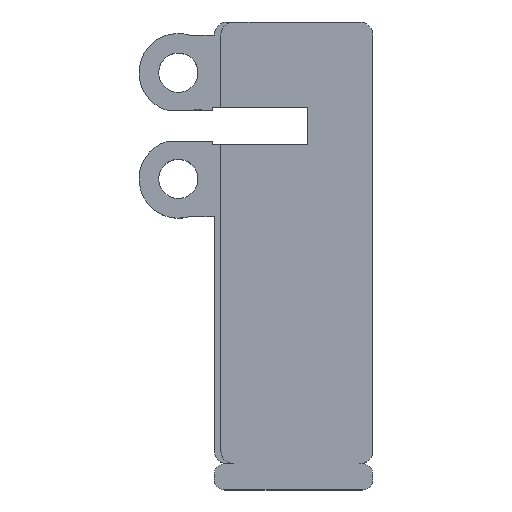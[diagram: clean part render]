
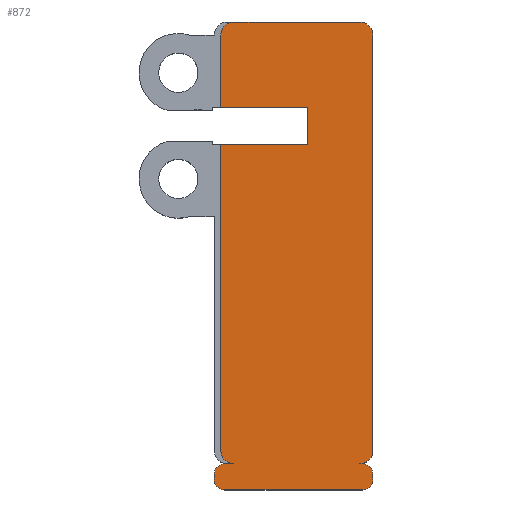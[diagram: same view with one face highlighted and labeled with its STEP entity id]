
A CAD part, top view. The second image highlights one B-rep face of the part: STEP entity #872.
In plain terms, the highlighted planar face has unit normal (0, 0, 1).
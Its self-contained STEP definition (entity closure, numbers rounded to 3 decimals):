
#40=CIRCLE('',#933,0.65);
#41=CIRCLE('',#934,0.65);
#42=CIRCLE('',#935,0.65);
#43=CIRCLE('',#936,0.8);
#44=CIRCLE('',#937,0.8);
#45=CIRCLE('',#938,0.8);
#46=CIRCLE('',#939,0.8);
#47=CIRCLE('',#940,0.65);
#77=FACE_OUTER_BOUND('',#123,.T.);
#123=EDGE_LOOP('',(#584,#585,#586,#587,#588,#589,#590,#591,#592,#593,#594,
#595,#596,#597,#598,#599,#600,#601,#602,#603));
#172=LINE('',#1280,#266);
#176=LINE('',#1290,#270);
#177=LINE('',#1294,#271);
#178=LINE('',#1298,#272);
#179=LINE('',#1302,#273);
#180=LINE('',#1306,#274);
#181=LINE('',#1310,#275);
#182=LINE('',#1312,#276);
#183=LINE('',#1314,#277);
#184=LINE('',#1316,#278);
#185=LINE('',#1318,#279);
#186=LINE('',#1322,#280);
#266=VECTOR('',#1018,1.);
#270=VECTOR('',#1026,1.);
#271=VECTOR('',#1029,1.);
#272=VECTOR('',#1032,1.);
#273=VECTOR('',#1035,1.);
#274=VECTOR('',#1038,1.);
#275=VECTOR('',#1041,1.);
#276=VECTOR('',#1042,1.);
#277=VECTOR('',#1043,1.);
#278=VECTOR('',#1044,1.);
#279=VECTOR('',#1045,1.);
#280=VECTOR('',#1048,1.);
#360=VERTEX_POINT('',#1278);
#361=VERTEX_POINT('',#1279);
#364=VERTEX_POINT('',#1287);
#365=VERTEX_POINT('',#1289);
#366=VERTEX_POINT('',#1291);
#367=VERTEX_POINT('',#1293);
#368=VERTEX_POINT('',#1295);
#369=VERTEX_POINT('',#1297);
#370=VERTEX_POINT('',#1299);
#371=VERTEX_POINT('',#1301);
#372=VERTEX_POINT('',#1303);
#373=VERTEX_POINT('',#1305);
#374=VERTEX_POINT('',#1307);
#375=VERTEX_POINT('',#1309);
#376=VERTEX_POINT('',#1311);
#377=VERTEX_POINT('',#1313);
#378=VERTEX_POINT('',#1315);
#379=VERTEX_POINT('',#1317);
#380=VERTEX_POINT('',#1319);
#381=VERTEX_POINT('',#1321);
#448=EDGE_CURVE('',#360,#361,#172,.T.);
#452=EDGE_CURVE('',#360,#364,#40,.T.);
#453=EDGE_CURVE('',#364,#365,#176,.T.);
#454=EDGE_CURVE('',#366,#365,#41,.T.);
#455=EDGE_CURVE('',#366,#367,#177,.T.);
#456=EDGE_CURVE('',#367,#368,#42,.T.);
#457=EDGE_CURVE('',#369,#368,#178,.T.);
#458=EDGE_CURVE('',#370,#369,#43,.T.);
#459=EDGE_CURVE('',#370,#371,#179,.T.);
#460=EDGE_CURVE('',#371,#372,#44,.T.);
#461=EDGE_CURVE('',#373,#372,#180,.T.);
#462=EDGE_CURVE('',#374,#373,#45,.T.);
#463=EDGE_CURVE('',#375,#374,#181,.T.);
#464=EDGE_CURVE('',#376,#375,#182,.T.);
#465=EDGE_CURVE('',#377,#376,#183,.T.);
#466=EDGE_CURVE('',#377,#378,#184,.T.);
#467=EDGE_CURVE('',#379,#378,#185,.T.);
#468=EDGE_CURVE('',#379,#380,#46,.T.);
#469=EDGE_CURVE('',#381,#380,#186,.T.);
#470=EDGE_CURVE('',#361,#381,#47,.T.);
#584=ORIENTED_EDGE('',*,*,#448,.F.);
#585=ORIENTED_EDGE('',*,*,#452,.T.);
#586=ORIENTED_EDGE('',*,*,#453,.T.);
#587=ORIENTED_EDGE('',*,*,#454,.F.);
#588=ORIENTED_EDGE('',*,*,#455,.T.);
#589=ORIENTED_EDGE('',*,*,#456,.T.);
#590=ORIENTED_EDGE('',*,*,#457,.F.);
#591=ORIENTED_EDGE('',*,*,#458,.F.);
#592=ORIENTED_EDGE('',*,*,#459,.T.);
#593=ORIENTED_EDGE('',*,*,#460,.T.);
#594=ORIENTED_EDGE('',*,*,#461,.F.);
#595=ORIENTED_EDGE('',*,*,#462,.F.);
#596=ORIENTED_EDGE('',*,*,#463,.F.);
#597=ORIENTED_EDGE('',*,*,#464,.F.);
#598=ORIENTED_EDGE('',*,*,#465,.F.);
#599=ORIENTED_EDGE('',*,*,#466,.T.);
#600=ORIENTED_EDGE('',*,*,#467,.F.);
#601=ORIENTED_EDGE('',*,*,#468,.T.);
#602=ORIENTED_EDGE('',*,*,#469,.F.);
#603=ORIENTED_EDGE('',*,*,#470,.F.);
#845=PLANE('',#932);
#872=ADVANCED_FACE('',(#77),#845,.T.);
#932=AXIS2_PLACEMENT_3D('',#1286,#1022,#1023);
#933=AXIS2_PLACEMENT_3D('',#1288,#1024,#1025);
#934=AXIS2_PLACEMENT_3D('',#1292,#1027,#1028);
#935=AXIS2_PLACEMENT_3D('',#1296,#1030,#1031);
#936=AXIS2_PLACEMENT_3D('',#1300,#1033,#1034);
#937=AXIS2_PLACEMENT_3D('',#1304,#1036,#1037);
#938=AXIS2_PLACEMENT_3D('',#1308,#1039,#1040);
#939=AXIS2_PLACEMENT_3D('',#1320,#1046,#1047);
#940=AXIS2_PLACEMENT_3D('',#1323,#1049,#1050);
#1018=DIRECTION('',(0.,1.,0.));
#1022=DIRECTION('center_axis',(0.,0.,1.));
#1023=DIRECTION('ref_axis',(1.,0.,0.));
#1024=DIRECTION('center_axis',(0.,0.,1.));
#1025=DIRECTION('ref_axis',(0.,-1.,0.));
#1026=DIRECTION('',(1.,0.,0.));
#1027=DIRECTION('center_axis',(0.,0.,-1.));
#1028=DIRECTION('ref_axis',(0.,-1.,0.));
#1029=DIRECTION('',(0.,1.,0.));
#1030=DIRECTION('center_axis',(0.,0.,1.));
#1031=DIRECTION('ref_axis',(0.,-1.,0.));
#1032=DIRECTION('',(1.,0.,0.));
#1033=DIRECTION('center_axis',(0.,0.,-1.));
#1034=DIRECTION('ref_axis',(0.,-1.,0.));
#1035=DIRECTION('',(0.,1.,0.));
#1036=DIRECTION('center_axis',(0.,0.,1.));
#1037=DIRECTION('ref_axis',(0.,-1.,0.));
#1038=DIRECTION('',(1.,0.,0.));
#1039=DIRECTION('center_axis',(0.,0.,-1.));
#1040=DIRECTION('ref_axis',(0.,-1.,0.));
#1041=DIRECTION('',(0.,1.,0.));
#1042=DIRECTION('',(-1.,0.,0.));
#1043=DIRECTION('',(0.,1.,0.));
#1044=DIRECTION('',(-1.,0.,0.));
#1045=DIRECTION('',(0.,1.,0.));
#1046=DIRECTION('center_axis',(0.,0.,1.));
#1047=DIRECTION('ref_axis',(0.,-1.,0.));
#1048=DIRECTION('',(1.,0.,0.));
#1049=DIRECTION('center_axis',(0.,0.,-1.));
#1050=DIRECTION('ref_axis',(0.,-1.,0.));
#1278=CARTESIAN_POINT('',(-31.2,26.03,-4.8));
#1279=CARTESIAN_POINT('',(-31.2,26.33,-4.8));
#1280=CARTESIAN_POINT('',(-31.2,25.38,-4.8));
#1286=CARTESIAN_POINT('Origin',(-31.2,25.38,-4.8));
#1287=CARTESIAN_POINT('',(-30.55,25.38,-4.8));
#1288=CARTESIAN_POINT('Origin',(-30.55,26.03,-4.8));
#1289=CARTESIAN_POINT('',(-22.15,25.38,-4.8));
#1290=CARTESIAN_POINT('',(-31.2,25.38,-4.8));
#1291=CARTESIAN_POINT('',(-21.5,26.03,-4.8));
#1292=CARTESIAN_POINT('Origin',(-22.15,26.03,-4.8));
#1293=CARTESIAN_POINT('',(-21.5,26.33,-4.8));
#1294=CARTESIAN_POINT('',(-21.5,25.38,-4.8));
#1295=CARTESIAN_POINT('',(-22.15,26.98,-4.8));
#1296=CARTESIAN_POINT('Origin',(-22.15,26.33,-4.8));
#1297=CARTESIAN_POINT('',(-22.3,26.98,-4.8));
#1298=CARTESIAN_POINT('',(-31.2,26.98,-4.8));
#1299=CARTESIAN_POINT('',(-21.5,27.78,-4.8));
#1300=CARTESIAN_POINT('Origin',(-22.3,27.78,-4.8));
#1301=CARTESIAN_POINT('',(-21.5,53.2,-4.8));
#1302=CARTESIAN_POINT('',(-21.5,26.98,-4.8));
#1303=CARTESIAN_POINT('',(-22.3,54.,-4.8));
#1304=CARTESIAN_POINT('Origin',(-22.3,53.2,-4.8));
#1305=CARTESIAN_POINT('',(-30.,54.,-4.8));
#1306=CARTESIAN_POINT('',(-30.8,54.,-4.8));
#1307=CARTESIAN_POINT('',(-30.8,53.2,-4.8));
#1308=CARTESIAN_POINT('Origin',(-30.,53.2,-4.8));
#1309=CARTESIAN_POINT('',(-30.8,48.8,-4.8));
#1310=CARTESIAN_POINT('',(-30.8,26.98,-4.8));
#1311=CARTESIAN_POINT('',(-25.5,48.8,-4.8));
#1312=CARTESIAN_POINT('',(-31.25,48.8,-4.8));
#1313=CARTESIAN_POINT('',(-25.5,46.5,-4.8));
#1314=CARTESIAN_POINT('',(-25.5,35.94,-4.8));
#1315=CARTESIAN_POINT('',(-30.8,46.5,-4.8));
#1316=CARTESIAN_POINT('',(-31.25,46.5,-4.8));
#1317=CARTESIAN_POINT('',(-30.8,27.78,-4.8));
#1318=CARTESIAN_POINT('',(-30.8,26.98,-4.8));
#1319=CARTESIAN_POINT('',(-30.,26.98,-4.8));
#1320=CARTESIAN_POINT('Origin',(-30.,27.78,-4.8));
#1321=CARTESIAN_POINT('',(-30.55,26.98,-4.8));
#1322=CARTESIAN_POINT('',(-31.2,26.98,-4.8));
#1323=CARTESIAN_POINT('Origin',(-30.55,26.33,-4.8));
